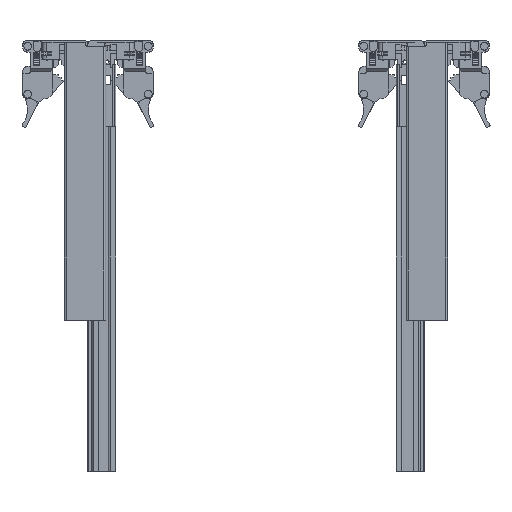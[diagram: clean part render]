
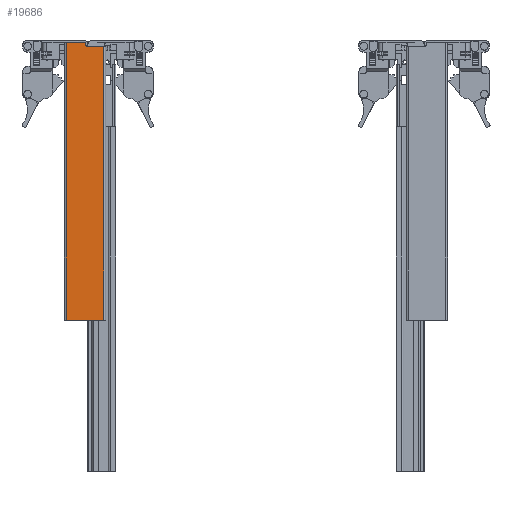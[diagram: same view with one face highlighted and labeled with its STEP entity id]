
A CAD part, front view. The second image highlights one B-rep face of the part: STEP entity #19686.
In plain terms, the highlighted planar face has unit normal (0, -1, 0).
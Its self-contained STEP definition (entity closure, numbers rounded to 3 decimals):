
#534=PLANE('',#21260);
#1211=FACE_OUTER_BOUND('',#2271,.T.);
#2271=EDGE_LOOP('',(#13064,#13065,#13066,#13067,#13068,#13069,#13070));
#3479=LINE('',#28693,#5577);
#3487=LINE('',#28716,#5585);
#3494=LINE('',#28733,#5592);
#3495=LINE('',#28737,#5593);
#3496=LINE('',#28739,#5594);
#3497=LINE('',#28740,#5595);
#5577=VECTOR('',#23037,10.);
#5585=VECTOR('',#23055,10.);
#5592=VECTOR('',#23072,10.);
#5593=VECTOR('',#23077,10.);
#5594=VECTOR('',#23078,10.);
#5595=VECTOR('',#23079,10.);
#7673=CIRCLE('',#21247,1.85);
#8344=VERTEX_POINT('',#28684);
#8345=VERTEX_POINT('',#28686);
#8347=VERTEX_POINT('',#28692);
#8357=VERTEX_POINT('',#28714);
#8362=VERTEX_POINT('',#28732);
#8363=VERTEX_POINT('',#28736);
#8364=VERTEX_POINT('',#28738);
#10180=EDGE_CURVE('',#8345,#8344,#7673,.T.);
#10183=EDGE_CURVE('',#8347,#8345,#3479,.T.);
#10195=EDGE_CURVE('',#8344,#8357,#3487,.T.);
#10203=EDGE_CURVE('',#8347,#8362,#3494,.T.);
#10205=EDGE_CURVE('',#8363,#8357,#3495,.T.);
#10206=EDGE_CURVE('',#8363,#8364,#3496,.T.);
#10207=EDGE_CURVE('',#8362,#8364,#3497,.T.);
#13064=ORIENTED_EDGE('',*,*,#10183,.T.);
#13065=ORIENTED_EDGE('',*,*,#10180,.T.);
#13066=ORIENTED_EDGE('',*,*,#10195,.T.);
#13067=ORIENTED_EDGE('',*,*,#10205,.F.);
#13068=ORIENTED_EDGE('',*,*,#10206,.T.);
#13069=ORIENTED_EDGE('',*,*,#10207,.F.);
#13070=ORIENTED_EDGE('',*,*,#10203,.F.);
#19686=ADVANCED_FACE('',(#1211),#534,.T.);
#21247=AXIS2_PLACEMENT_3D('',#28687,#23031,#23032);
#21260=AXIS2_PLACEMENT_3D('',#28735,#23075,#23076);
#23031=DIRECTION('center_axis',(0.,1.,0.));
#23032=DIRECTION('ref_axis',(0.,0.,1.));
#23037=DIRECTION('',(-1.,0.,0.));
#23055=DIRECTION('',(0.,0.,1.));
#23072=DIRECTION('',(0.,0.,-1.));
#23075=DIRECTION('center_axis',(0.,-1.,0.));
#23076=DIRECTION('ref_axis',(-1.,0.,0.));
#23077=DIRECTION('',(1.,0.,0.));
#23078=DIRECTION('',(0.,0.,-1.));
#23079=DIRECTION('',(-1.,0.,0.));
#28684=CARTESIAN_POINT('',(22.,0.,-2.15));
#28686=CARTESIAN_POINT('',(23.85,0.,-4.));
#28687=CARTESIAN_POINT('Origin',(23.85,0.,-2.15));
#28692=CARTESIAN_POINT('',(41.,0.,-4.));
#28693=CARTESIAN_POINT('',(32.425,0.,-4.));
#28714=CARTESIAN_POINT('',(22.,0.,0.));
#28716=CARTESIAN_POINT('',(22.,0.,72.5));
#28732=CARTESIAN_POINT('',(41.,0.,-290.));
#28733=CARTESIAN_POINT('',(41.,0.,0.));
#28735=CARTESIAN_POINT('Origin',(41.,0.,0.));
#28736=CARTESIAN_POINT('',(2.,0.,0.));
#28737=CARTESIAN_POINT('',(2.,0.,0.));
#28738=CARTESIAN_POINT('',(2.,0.,-290.));
#28739=CARTESIAN_POINT('',(2.,0.,0.));
#28740=CARTESIAN_POINT('',(2.,0.,-290.));
